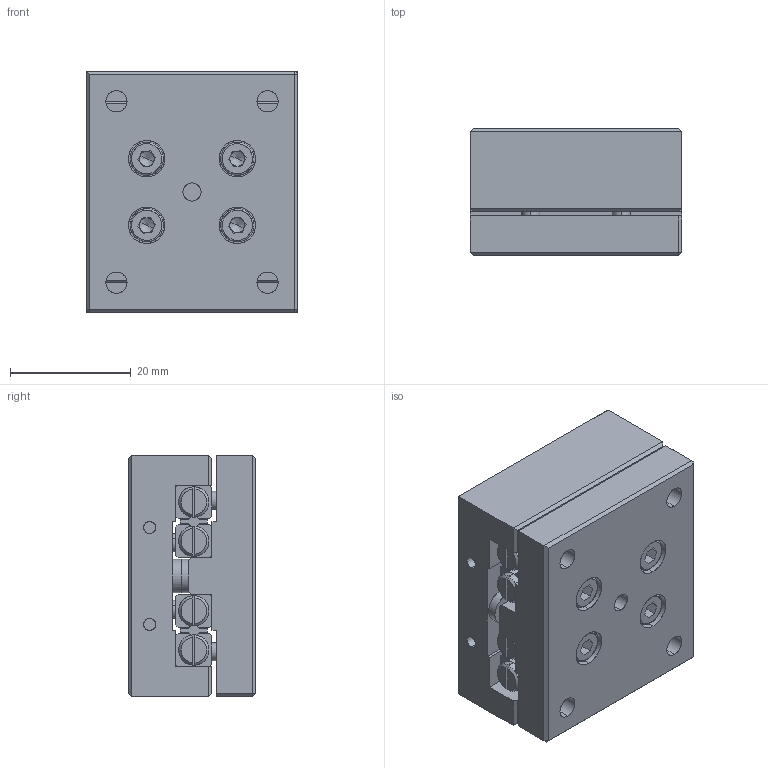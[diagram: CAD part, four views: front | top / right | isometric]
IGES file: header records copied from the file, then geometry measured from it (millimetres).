
Start section: SolidWorks IGES file using analytic representation for surfaces
Global section: file name: C:\Documents and Settings\IanO.IANOHOME\My Documents\Wix and Auto CAD Work\CAD Models\Parametric Models\Auto Models\L1020\L1020_IGES\L1020.040-035.igs; native system: SolidWorks 2009; preprocessor: SolidWorks 2009; author: IanO; date: 110922.162211; units: millimetre
Bounding box: 35 x 21 x 40 mm (x, y, z)
Surface area: 16700.6 mm2 (no closed solid volume)
Topology: 0 solids, 0 shells, 737 faces, 9220 edges, 9200 vertices
Faces by surface type: bspline 477, revolution 260
